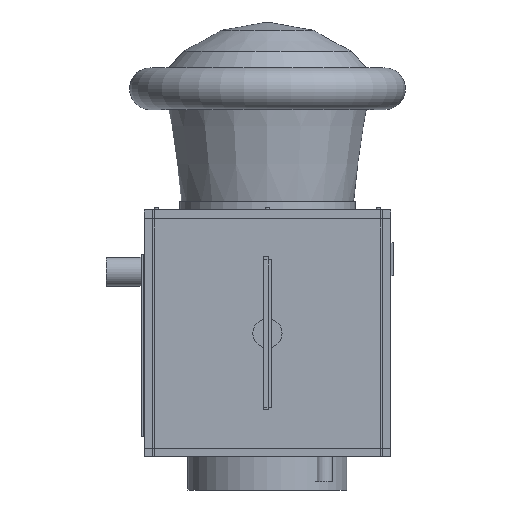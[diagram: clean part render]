
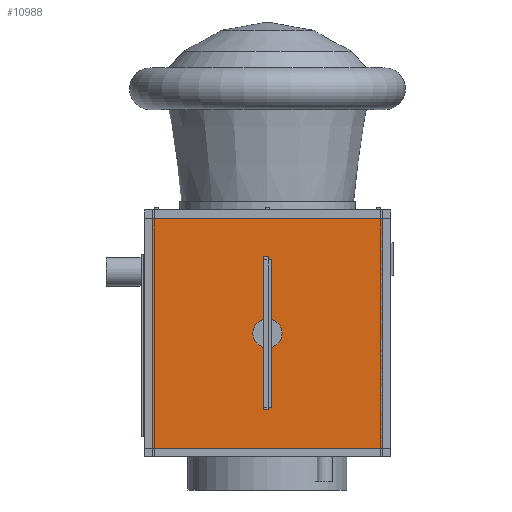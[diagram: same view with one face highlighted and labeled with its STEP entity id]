
A CAD part, left-side view. The second image highlights one B-rep face of the part: STEP entity #10988.
In plain terms, the highlighted planar face has unit normal (-1, 0, 0).
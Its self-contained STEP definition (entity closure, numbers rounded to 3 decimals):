
#10988 = ADVANCED_FACE('',(#10989),#11003,.F.);
#10989 = FACE_BOUND('',#10990,.F.);
#10990 = EDGE_LOOP('',(#10991,#11026,#11054,#11082));
#10991 = ORIENTED_EDGE('',*,*,#10992,.F.);
#10992 = EDGE_CURVE('',#10993,#10995,#10997,.T.);
#10993 = VERTEX_POINT('',#10994);
#10994 = CARTESIAN_POINT('',(-0.296,-0.276,-0.571));
#10995 = VERTEX_POINT('',#10996);
#10996 = CARTESIAN_POINT('',(-0.296,-0.276,-0.02));
#10997 = SURFACE_CURVE('',#10998,(#11002,#11014),.PCURVE_S1.);
#10998 = LINE('',#10999,#11000);
#10999 = CARTESIAN_POINT('',(-0.296,-0.276,-0.571));
#11000 = VECTOR('',#11001,1.);
#11001 = DIRECTION('',(0.,0.,1.));
#11002 = PCURVE('',#11003,#11008);
#11003 = PLANE('',#11004);
#11004 = AXIS2_PLACEMENT_3D('',#11005,#11006,#11007);
#11005 = CARTESIAN_POINT('',(-0.296,-0.276,-0.571));
#11006 = DIRECTION('',(1.,0.,0.));
#11007 = DIRECTION('',(0.,0.,1.));
#11008 = DEFINITIONAL_REPRESENTATION('',(#11009),#11013);
#11009 = LINE('',#11010,#11011);
#11010 = CARTESIAN_POINT('',(0.,0.));
#11011 = VECTOR('',#11012,1.);
#11012 = DIRECTION('',(1.,0.));
#11013 = ( GEOMETRIC_REPRESENTATION_CONTEXT(2) 
PARAMETRIC_REPRESENTATION_CONTEXT() REPRESENTATION_CONTEXT('2D SPACE',''
  ) );
#11014 = PCURVE('',#11015,#11020);
#11015 = PLANE('',#11016);
#11016 = AXIS2_PLACEMENT_3D('',#11017,#11018,#11019);
#11017 = CARTESIAN_POINT('',(-0.296,-0.276,-0.571));
#11018 = DIRECTION('',(0.,1.,0.));
#11019 = DIRECTION('',(0.,0.,1.));
#11020 = DEFINITIONAL_REPRESENTATION('',(#11021),#11025);
#11021 = LINE('',#11022,#11023);
#11022 = CARTESIAN_POINT('',(0.,0.));
#11023 = VECTOR('',#11024,1.);
#11024 = DIRECTION('',(1.,0.));
#11025 = ( GEOMETRIC_REPRESENTATION_CONTEXT(2) 
PARAMETRIC_REPRESENTATION_CONTEXT() REPRESENTATION_CONTEXT('2D SPACE',''
  ) );
#11026 = ORIENTED_EDGE('',*,*,#11027,.T.);
#11027 = EDGE_CURVE('',#10993,#11028,#11030,.T.);
#11028 = VERTEX_POINT('',#11029);
#11029 = CARTESIAN_POINT('',(-0.296,0.276,-0.571));
#11030 = SURFACE_CURVE('',#11031,(#11035,#11042),.PCURVE_S1.);
#11031 = LINE('',#11032,#11033);
#11032 = CARTESIAN_POINT('',(-0.296,-0.276,-0.571));
#11033 = VECTOR('',#11034,1.);
#11034 = DIRECTION('',(0.,1.,0.));
#11035 = PCURVE('',#11003,#11036);
#11036 = DEFINITIONAL_REPRESENTATION('',(#11037),#11041);
#11037 = LINE('',#11038,#11039);
#11038 = CARTESIAN_POINT('',(0.,0.));
#11039 = VECTOR('',#11040,1.);
#11040 = DIRECTION('',(0.,-1.));
#11041 = ( GEOMETRIC_REPRESENTATION_CONTEXT(2) 
PARAMETRIC_REPRESENTATION_CONTEXT() REPRESENTATION_CONTEXT('2D SPACE',''
  ) );
#11042 = PCURVE('',#11043,#11048);
#11043 = PLANE('',#11044);
#11044 = AXIS2_PLACEMENT_3D('',#11045,#11046,#11047);
#11045 = CARTESIAN_POINT('',(-0.296,-0.276,-0.571));
#11046 = DIRECTION('',(0.,0.,1.));
#11047 = DIRECTION('',(1.,0.,0.));
#11048 = DEFINITIONAL_REPRESENTATION('',(#11049),#11053);
#11049 = LINE('',#11050,#11051);
#11050 = CARTESIAN_POINT('',(0.,0.));
#11051 = VECTOR('',#11052,1.);
#11052 = DIRECTION('',(0.,1.));
#11053 = ( GEOMETRIC_REPRESENTATION_CONTEXT(2) 
PARAMETRIC_REPRESENTATION_CONTEXT() REPRESENTATION_CONTEXT('2D SPACE',''
  ) );
#11054 = ORIENTED_EDGE('',*,*,#11055,.T.);
#11055 = EDGE_CURVE('',#11028,#11056,#11058,.T.);
#11056 = VERTEX_POINT('',#11057);
#11057 = CARTESIAN_POINT('',(-0.296,0.276,-0.02));
#11058 = SURFACE_CURVE('',#11059,(#11063,#11070),.PCURVE_S1.);
#11059 = LINE('',#11060,#11061);
#11060 = CARTESIAN_POINT('',(-0.296,0.276,-0.571));
#11061 = VECTOR('',#11062,1.);
#11062 = DIRECTION('',(0.,0.,1.));
#11063 = PCURVE('',#11003,#11064);
#11064 = DEFINITIONAL_REPRESENTATION('',(#11065),#11069);
#11065 = LINE('',#11066,#11067);
#11066 = CARTESIAN_POINT('',(0.,-0.551));
#11067 = VECTOR('',#11068,1.);
#11068 = DIRECTION('',(1.,0.));
#11069 = ( GEOMETRIC_REPRESENTATION_CONTEXT(2) 
PARAMETRIC_REPRESENTATION_CONTEXT() REPRESENTATION_CONTEXT('2D SPACE',''
  ) );
#11070 = PCURVE('',#11071,#11076);
#11071 = PLANE('',#11072);
#11072 = AXIS2_PLACEMENT_3D('',#11073,#11074,#11075);
#11073 = CARTESIAN_POINT('',(-0.296,0.276,-0.571));
#11074 = DIRECTION('',(0.,1.,0.));
#11075 = DIRECTION('',(0.,0.,1.));
#11076 = DEFINITIONAL_REPRESENTATION('',(#11077),#11081);
#11077 = LINE('',#11078,#11079);
#11078 = CARTESIAN_POINT('',(0.,0.));
#11079 = VECTOR('',#11080,1.);
#11080 = DIRECTION('',(1.,0.));
#11081 = ( GEOMETRIC_REPRESENTATION_CONTEXT(2) 
PARAMETRIC_REPRESENTATION_CONTEXT() REPRESENTATION_CONTEXT('2D SPACE',''
  ) );
#11082 = ORIENTED_EDGE('',*,*,#11083,.F.);
#11083 = EDGE_CURVE('',#10995,#11056,#11084,.T.);
#11084 = SURFACE_CURVE('',#11085,(#11089,#11096),.PCURVE_S1.);
#11085 = LINE('',#11086,#11087);
#11086 = CARTESIAN_POINT('',(-0.296,-0.276,-0.02));
#11087 = VECTOR('',#11088,1.);
#11088 = DIRECTION('',(0.,1.,0.));
#11089 = PCURVE('',#11003,#11090);
#11090 = DEFINITIONAL_REPRESENTATION('',(#11091),#11095);
#11091 = LINE('',#11092,#11093);
#11092 = CARTESIAN_POINT('',(0.551,0.));
#11093 = VECTOR('',#11094,1.);
#11094 = DIRECTION('',(0.,-1.));
#11095 = ( GEOMETRIC_REPRESENTATION_CONTEXT(2) 
PARAMETRIC_REPRESENTATION_CONTEXT() REPRESENTATION_CONTEXT('2D SPACE',''
  ) );
#11096 = PCURVE('',#11097,#11102);
#11097 = PLANE('',#11098);
#11098 = AXIS2_PLACEMENT_3D('',#11099,#11100,#11101);
#11099 = CARTESIAN_POINT('',(-0.296,-0.276,-0.02));
#11100 = DIRECTION('',(0.,0.,1.));
#11101 = DIRECTION('',(1.,0.,0.));
#11102 = DEFINITIONAL_REPRESENTATION('',(#11103),#11107);
#11103 = LINE('',#11104,#11105);
#11104 = CARTESIAN_POINT('',(0.,0.));
#11105 = VECTOR('',#11106,1.);
#11106 = DIRECTION('',(0.,1.));
#11107 = ( GEOMETRIC_REPRESENTATION_CONTEXT(2) 
PARAMETRIC_REPRESENTATION_CONTEXT() REPRESENTATION_CONTEXT('2D SPACE',''
  ) );
